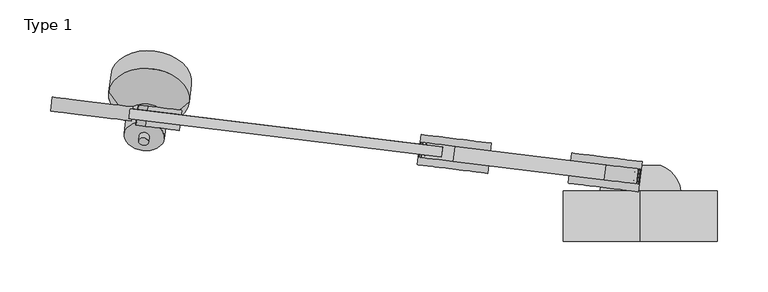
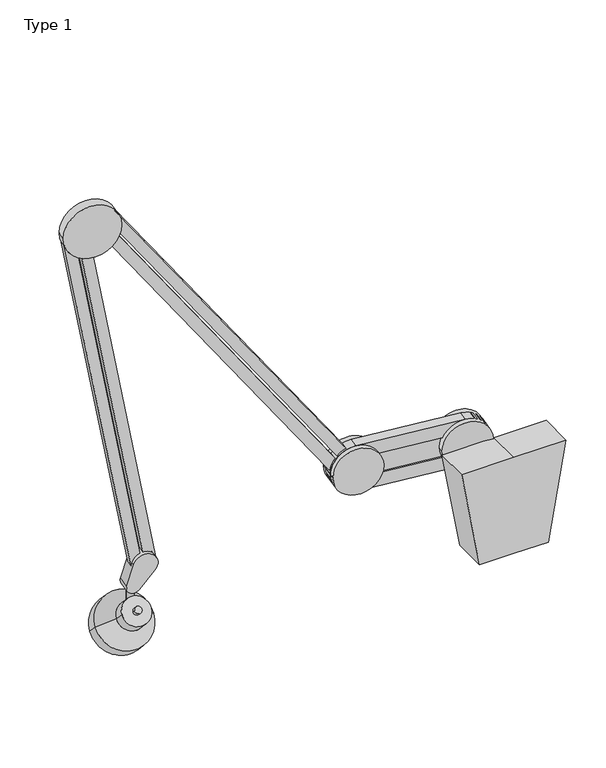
"""IFC4 building model written with IfcOpenShell, lengths in millimetres: proxy geometry, BIMHealth-Reading_Lamp_Wall_Mounted-LOD2A-v1 : Type 1."""

from ifc_helpers import new_model, si_unit, point, frame, frame_2d, origin, place, context, project, spatial, polyline, circle_curve, trimmed, segment, composite_curve, outline, extrude, source, transform, mapped, element, save
from ifc_brep_helpers import plane_surface, revolved_surface, advanced_brep


def type_1_05e54dc7(model_context):
    return source(origin(), model_context, "Body", "SolidModel", [
        extrude(outline(composite_curve([segment(trimmed(circle_curve(frame_2d((0.0, -5.0)), 5.0), [point((0.0, -10.0))], [point((0.0, 0.0))], False, "CARTESIAN"), True, "CONTINUOUS"), segment(trimmed(circle_curve(frame_2d((0.0, -5.0)), 5.0), [point((0.0, 0.0))], [point((0.0, -10.0))], False, "CARTESIAN"), True, "CONTINUOUS")], self_intersect=False)), frame((-359.9423144, 178.2944811, 1319.3826208), z_axis=(-0.08617463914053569, -0.7018361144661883, 0.7071067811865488), x_axis=(-0.08617463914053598, -0.701836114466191, -0.7071067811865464)), (0.0, 0.0, 1.0), 7.5),
        extrude(outline(composite_curve([segment(trimmed(circle_curve(frame_2d((0.0, -20.0)), 20.0), [point((-1e-07, -39.9999999))], [point((0.0, 0.0))], False, "CARTESIAN"), True, "CONTINUOUS"), segment(trimmed(circle_curve(frame_2d((0.0, -20.0)), 20.0), [point((0.0, 0.0))], [point((-1e-07, -39.9999999))], False, "CARTESIAN"), True, "CONTINUOUS")], self_intersect=False)), frame((-342.8997562, 194.0123438, 1301.7049513), z_axis=(-0.08617463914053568, -0.7018361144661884, 0.7071067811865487), x_axis=(-0.08617463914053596, -0.7018361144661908, -0.7071067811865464)), (0.0, 0.0, 1.0), 25.0),
        advanced_brep(
        [(-382.6016022, 198.8871176, 1301.7049513), (-342.8997562, 194.0123438, 1301.7049513), (-399.8672861, 222.3795879, 1280.4917479), (-320.4635939, 212.6300404, 1280.4917479)],
        [
            (0, 1, circle_curve(frame((-362.7506792, 196.4497307, 1301.7049513), z_axis=(-0.08617463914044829, -0.7018361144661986, 0.7071067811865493), x_axis=(-0.9925461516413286, 0.12186934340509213, 0.0)), 20.0)),
            (1, 0, circle_curve(frame((-362.7506792, 196.4497307, 1301.7049513), z_axis=(-0.08617463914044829, -0.7018361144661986, 0.7071067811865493), x_axis=(0.9925461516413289, -0.12186934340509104, 0.0)), 20.0)),
            (2, 3, circle_curve(frame((-360.16544, 217.5048141, 1280.4917479), z_axis=(0.08617463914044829, 0.7018361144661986, -0.7071067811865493), x_axis=(0.9925461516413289, -0.12186934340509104, 0.0)), 40.0)),
            (3, 2, circle_curve(frame((-360.16544, 217.5048141, 1280.4917479), z_axis=(0.08617463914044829, 0.7018361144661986, -0.7071067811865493), x_axis=(-0.9925461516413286, 0.12186934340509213, 0.0)), 40.0)),
            (3, 1),
            (0, 2),
        ],
        [
            plane_surface(frame((-362.7506792, 196.4497307, 1301.7049513), z_axis=(-0.08617463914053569, -0.7018361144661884, 0.707106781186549), x_axis=(-0.0861746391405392, -0.7018361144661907, -0.7071067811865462))),
            plane_surface(frame((-360.16544, 217.5048141, 1280.4917479), z_axis=(0.08617463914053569, 0.7018361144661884, -0.707106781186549), x_axis=(-0.0861746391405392, -0.7018361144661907, -0.7071067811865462))),
            revolved_surface(polyline([(-382.60160222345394, 198.8871175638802, 1301.7049513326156), (-399.8672861, 222.3795879, 1280.4917479)]), (-365.3359184, 175.3946473, 1322.9181547), (0.08617463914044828, 0.7018361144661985, -0.7071067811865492)),
            revolved_surface(polyline([(-342.8997561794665, 194.01234382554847, 1301.7049513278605), (-320.46359388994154, 212.63004040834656, 1280.49174789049)]), (-365.3359184, 175.3946473, 1322.9181547), (0.08617463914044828, 0.7018361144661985, -0.7071067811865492)),
        ],
        [
            (0, [[1, 2]]),
            (1, [[3, 4]]),
            (2, [[-4, 5, -1, 6]]),
            (3, [[-3, -6, -2, -5]]),
        ],
    ),
        extrude(outline(composite_curve([segment(trimmed(circle_curve(frame_2d((0.0, -39.9999999)), 40.0), [point((0.0, -80.0))], [point((0.0, 0.0))], False, "CARTESIAN"), True, "CONTINUOUS"), segment(trimmed(circle_curve(frame_2d((0.0, -39.9999999)), 40.0), [point((0.0, 0.0))], [point((0.0, -80.0))], False, "CARTESIAN"), True, "CONTINUOUS")], self_intersect=False), holes=[composite_curve([segment(trimmed(circle_curve(frame_2d((0.0, -39.9999999)), 35.0), [point((0.0, -74.9999999))], [point((0.0, -4.9999999))], True, "CARTESIAN"), True, "CONTINUOUS"), segment(trimmed(circle_curve(frame_2d((0.0, -39.9999999)), 35.0), [point((0.0, -4.9999999))], [point((0.0, -74.9999999))], True, "CARTESIAN"), True, "CONTINUOUS")], self_intersect=False)]), frame((-318.309228, 230.1759433, 1262.8140783), z_axis=(-0.08617463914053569, -0.7018361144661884, 0.7071067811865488), x_axis=(-0.08617463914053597, -0.7018361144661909, -0.7071067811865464)), (0.0, 0.0, 1.0), 25.0),
        extrude(outline(composite_curve([segment(trimmed(circle_curve(frame_2d((-362.3884372, 199.3999548)), 5.0), [point((-367.351168, 200.0093015))], [point((-357.4257065, 198.790608))], False, "CARTESIAN"), True, "CONTINUOUS"), segment(trimmed(circle_curve(frame_2d((-362.3884372, 199.3999548)), 5.0), [point((-357.4257065, 198.790608))], [point((-367.351168, 200.0093015))], False, "CARTESIAN"), True, "CONTINUOUS")], self_intersect=False)), frame((0.0, 0.0, 1315.0), z_axis=(0.0, 0.0, 1.0), x_axis=(1.0, 0.0, 0.0)), (0.0, 0.0, 1.0), 30.0),
        extrude(outline(composite_curve([segment(polyline([(-35.7491259, 1e-07), (-3.6084564, 0.0)]), True, "CONTINUOUS"), segment(trimmed(circle_curve(frame_2d((-3.6084564, -17.0)), 17.0), [point((-3.6084564, 0.0))], [point((-10.657016, -32.4699))], False, "CARTESIAN"), True, "CONTINUOUS"), segment(polyline([(-10.657016, -32.4699), (-39.9048362, -19.1436987)]), True, "CONTINUOUS"), segment(trimmed(circle_curve(frame_2d((-35.7491259, -10.0229097)), 10.0229097), [point((-39.9048362, -19.1436987))], [point((-35.7491259, 1e-07))], False, "CARTESIAN"), True, "CONTINUOUS")], self_intersect=False)), frame((-332.2358985, 184.8738835, 1370.7411165), z_axis=(0.12186934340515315, 0.9925461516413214, 0.0), x_axis=(0.6673259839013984, -0.08193732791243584, 0.7402447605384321)), (0.0, 0.0, 1.0), 20.0),
        extrude(outline(composite_curve([segment(polyline([(-37.4298332, 25.8929952), (-528.674874, 112.51275), (-526.0701514, 127.2848663), (-39.969093, 41.5721343)]), True, "CONTINUOUS"), segment(trimmed(circle_curve(frame_2d((0.0, 40.0)), 40.0), [point((-39.969093, 41.5721343))], [point((-37.4298332, 25.8929952))], True, "CARTESIAN"), True, "CONTINUOUS")], self_intersect=False)), frame((-457.1085773, 205.724398, 1910.3490446), z_axis=(0.12186934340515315, 0.9925461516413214, 0.0), x_axis=(0.0, 0.0, 1.0)), (0.0, 0.0, 1.0), 10.0),
        extrude(outline(composite_curve([segment(trimmed(circle_curve(frame_2d((0.0, 40.0)), 40.0), [point((-35.4560308, 21.483254))], [point((-13.6808058, 2.4122952))], True, "CARTESIAN"), True, "CONTINUOUS"), segment(polyline([(-13.6808058, 2.4122952), (-531.9741894, 93.8014026), (-529.3694668, 108.573519), (-35.4560308, 21.483254)]), True, "CONTINUOUS")], self_intersect=False)), frame((-457.1085773, 205.724398, 1910.3490446), z_axis=(0.12186934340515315, 0.9925461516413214, 0.0), x_axis=(0.0, 0.0, 1.0)), (0.0, 0.0, 1.0), 10.0),
        extrude(outline(composite_curve([segment(trimmed(circle_curve(frame_2d((0.0, -40.0)), 40.0), [point((0.0, -80.0000001))], [point((0.0, 0.0))], False, "CARTESIAN"), True, "CONTINUOUS"), segment(trimmed(circle_curve(frame_2d((0.0, -40.0)), 40.0), [point((0.0, 0.0))], [point((0.0, -80.0000001))], False, "CARTESIAN"), True, "CONTINUOUS")], self_intersect=False)), frame((-457.352316, 203.7393057, 1910.3490446), z_axis=(0.12186934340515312, 0.9925461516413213, 0.0), x_axis=(0.0, 0.0, -1.0)), (0.0, 0.0, 1.0), 14.0),
        extrude(outline(composite_curve([segment(polyline([(0.0, 0.0), (15.0, -1e-07), (15.0, -561.1012296)]), True, "CONTINUOUS"), segment(trimmed(circle_curve(frame_2d((-10.3230947, -585.2619597)), 35.0), [point((15.0, -561.1012296))], [point((0.0, -551.8189676))], True, "CARTESIAN"), True, "CONTINUOUS"), segment(polyline([(0.0, -551.8189676), (0.0, 0.0)]), True, "CONTINUOUS")], self_intersect=False)), frame((-400.9234341, 198.8257299, 1920.9974469), z_axis=(0.12186934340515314, 0.9925461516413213, 0.0), x_axis=(-0.8130462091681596, 0.09982952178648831, -0.5735764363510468)), (0.0, 0.0, 1.0), 10.0),
        extrude(outline(composite_curve([segment(polyline([(-4.0, -1e-07), (-4.0, -550.8378624)]), True, "CONTINUOUS"), segment(trimmed(circle_curve(frame_2d((-10.3230947, -585.2619597)), 35.0), [point((-4.0, -550.8378624))], [point((-19.0, -551.3545665))], True, "CARTESIAN"), True, "CONTINUOUS"), segment(polyline([(-19.0, -551.3545665), (-19.0, 0.0), (-4.0, -1e-07)]), True, "CONTINUOUS")], self_intersect=False)), frame((-400.9234341, 198.8257299, 1920.9974469), z_axis=(0.12186934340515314, 0.9925461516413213, 0.0), x_axis=(-0.8130462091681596, 0.09982952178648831, -0.5735764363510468)), (0.0, 0.0, 1.0), 10.0),
        extrude(outline(composite_curve([segment(trimmed(circle_curve(frame_2d((115.0, 139.96216)), 5.0), [point((110.0, 139.96216))], [point((120.0, 139.96216))], False, "CARTESIAN"), True, "CONTINUOUS"), segment(trimmed(circle_curve(frame_2d((115.0, 139.96216)), 5.0), [point((120.0, 139.96216))], [point((110.0, 139.96216))], False, "CARTESIAN"), True, "CONTINUOUS")], self_intersect=False)), frame((0.0, 0.0, 1412.5), z_axis=(0.0, 0.0, 1.0), x_axis=(1.0, 0.0, 0.0)), (0.0, 0.0, 1.0), 25.0),
        extrude(outline(composite_curve([segment(trimmed(circle_curve(frame_2d((0.0, 35.0)), 35.0), [point((-15.0, 3.3772234))], [point((15.0, 3.3772234))], True, "CARTESIAN"), True, "CONTINUOUS"), segment(polyline([(15.0, 3.3772234), (15.0, -83.3772234)]), True, "CONTINUOUS"), segment(trimmed(circle_curve(frame_2d((0.0, -115.0)), 35.0), [point((15.0, -83.3772234))], [point((-15.0, -83.3772234))], True, "CARTESIAN"), True, "CONTINUOUS"), segment(polyline([(-15.0, -83.3772234), (-15.0, 3.3772234)]), True, "CONTINUOUS")], self_intersect=False)), frame((54.9018359, 142.3768959, 1447.4993311), z_axis=(0.12186934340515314, 0.9925461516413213, 0.0), x_axis=(0.0, 0.0, 1.0)), (0.0, 0.0, 1.0), 10.0),
        extrude(outline(composite_curve([segment(trimmed(circle_curve(frame_2d((0.0, -35.0)), 35.0), [point((35.0, -35.0))], [point((-35.0, -35.0))], False, "CARTESIAN"), True, "CONTINUOUS"), segment(polyline([(-35.0, -35.0), (-35.0, 115.0000001)]), True, "CONTINUOUS"), segment(trimmed(circle_curve(frame_2d((0.0, 115.0000001)), 35.0), [point((-35.0, 115.0000001))], [point((35.0, 115.0000001))], False, "CARTESIAN"), True, "CONTINUOUS"), segment(polyline([(35.0, 115.0000001), (35.0, -35.0)]), True, "CONTINUOUS")], self_intersect=False), holes=[composite_curve([segment(polyline([(-15.0, 115.0000001), (-15.0, -35.0)]), True, "CONTINUOUS"), segment(trimmed(circle_curve(frame_2d((0.0, -35.0)), 15.0), [point((-15.0, -35.0))], [point((15.0, -35.0))], True, "CARTESIAN"), True, "CONTINUOUS"), segment(polyline([(15.0, -35.0), (15.0, 115.0000001)]), True, "CONTINUOUS"), segment(trimmed(circle_curve(frame_2d((0.0, 115.0000001)), 15.0), [point((15.0, 115.0000001))], [point((-15.0, 115.0000001))], True, "CARTESIAN"), True, "CONTINUOUS")], self_intersect=False)]), frame((54.5971626, 139.8955305, 1447.5), z_axis=(0.12186934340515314, 0.9925461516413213, 0.0), x_axis=(0.0, 0.0, -1.0)), (0.0, 0.0, 1.0), 15.0),
        extrude(outline(composite_curve([segment(trimmed(circle_curve(frame_2d((0.0, -35.0)), 35.0), [point((0.0, -70.0))], [point((0.0, 0.0))], False, "CARTESIAN"), True, "CONTINUOUS"), segment(trimmed(circle_curve(frame_2d((0.0, -35.0)), 35.0), [point((0.0, 0.0))], [point((0.0, -70.0))], False, "CARTESIAN"), True, "CONTINUOUS")], self_intersect=False)), frame((-95.1987802, 150.7318359, 1447.5), z_axis=(0.12186934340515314, 0.9925461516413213, 0.0), x_axis=(0.0, 0.0, -1.0)), (0.0, 0.0, 1.0), 30.0),
        extrude(outline(composite_curve([segment(trimmed(circle_curve(frame_2d((0.0, -35.0)), 35.0), [point((0.0, -70.0))], [point((0.0, 0.0))], False, "CARTESIAN"), True, "CONTINUOUS"), segment(trimmed(circle_curve(frame_2d((0.0, -35.0)), 35.0), [point((0.0, 0.0))], [point((0.0, -70.0))], False, "CARTESIAN"), True, "CONTINUOUS")], self_intersect=False)), frame((53.6831425, 132.4514344, 1447.5), z_axis=(0.12186934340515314, 0.9925461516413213, 0.0), x_axis=(0.0, 0.0, -1.0)), (0.0, 0.0, 1.0), 30.0),
        extrude(outline(composite_curve([segment(trimmed(circle_curve(frame_2d((115.5077973, 121.0937622)), 30.7568592), [point((85.0, 125.0))], [point((105.0, 150.0))], False, "CARTESIAN"), True, "CONTINUOUS"), segment(polyline([(105.0, 150.0), (125.0, 150.0), (145.0, 150.0)]), True, "CONTINUOUS"), segment(trimmed(circle_curve(frame_2d((134.4922027, 121.0937622)), 30.7568592), [point((145.0, 150.0))], [point((165.0, 125.0))], False, "CARTESIAN"), True, "CONTINUOUS"), segment(polyline([(165.0, 125.0), (125.0, 125.0), (85.0, 125.0)]), True, "CONTINUOUS")], self_intersect=False)), frame((0.0, 0.0, 1337.5), z_axis=(0.0, 0.0, 1.0), x_axis=(1.0, 0.0, 0.0)), (0.0, 0.0, 1.0), 75.0),
        extrude(outline(polyline([(1300.0, 175.0), (1447.721163, 201.0472267), (1447.721163, 125.0), (1447.721163, 48.9527733), (1300.0, 75.0), (1300.0, 125.0), (1300.0, 175.0)])), frame((0.0, 75.0, 0.0), z_axis=(0.0, 1.0, 0.0), x_axis=(0.0, 0.0, 1.0)), (0.0, 0.0, 1.0), 50.0),
    ])


if __name__ == "__main__":
    model = new_model("IFC4")
    model_context = context("Model", 3, world=origin())
    ifc_project = project(units=[si_unit("LENGTHUNIT", "METRE", prefix="MILLI")], contexts=[model_context])
    site = spatial("IfcSite", under=ifc_project)
    building = spatial("IfcBuilding", under=site)
    placement = place(None, origin())
    type_1_shape = type_1_05e54dc7(model_context)
    element("IfcBuildingElementProxy", 1, Name="BIMHealth-Reading_Lamp_Wall_Mounted-LOD2A-v1 : Type 1", ObjectType="BIMHealth-Reading_Lamp_Wall_Mounted-LOD2A-v1 : Type 1", at=placement, inside=building, context=model_context, shape_type="MappedRepresentation", body=[
        mapped(type_1_shape, transform((0.0, 0.0, 0.0), x_axis=(1.0, 0.0, 0.0), y_axis=(0.0, 1.0, 0.0), z_axis=(0.0, 0.0, 1.0))),
    ])
    save(model, "model.ifc")
